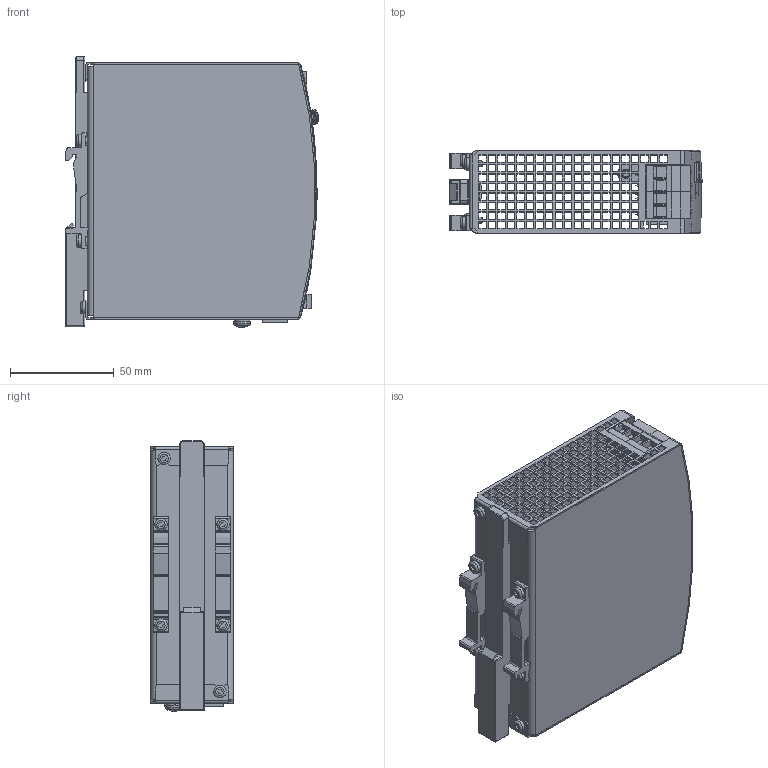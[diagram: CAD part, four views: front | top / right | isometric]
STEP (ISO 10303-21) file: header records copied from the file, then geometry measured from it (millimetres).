
FILE_DESCRIPTION((''),'2;1');
FILE_NAME('C:\Users\rahns\Desktop\Marketing\CPS20.241-C1\SD1CT5-121-SR1_SC_2014-05-22.stp','2014-05-22T11:28:21',('rahns'),(''),'Autodesk Inventor 2009','Autodesk Inventor 2009','');
FILE_SCHEMA(('AUTOMOTIVE_DESIGN { 1 0 10303 214 1 1 1 1 }'));
Length unit declared in the file: millimetre
Products named in the file (12): 385; HOUSING BODY 385; HOUSING COVER 385; FRONTFOIL 385; POTENTIOMETER COVER; TERMINAL 2P D1; TERMINAL 3P D3; T HOLDER; SLIDER; SCREW 3x6; SCREW 4x8; WASHER 4
Assembly tree (18 placements, depth 2):
  385
    HOUSING BODY 385
    HOUSING COVER 385
    FRONTFOIL 385
    POTENTIOMETER COVER
    TERMINAL 2P D1  x2
    TERMINAL 3P D3
    T HOLDER  x2
    SLIDER
    SCREW 3x6  x6
    SCREW 4x8
    WASHER 4
Bounding box: 122.17 x 40 x 130.77 mm (x, y, z)
Volume: 80185.5 mm3; surface area: 109534.4 mm2
Topology: 18 solids, 18 shells, 2452 faces, 6838 edges, 4504 vertices
Faces by surface type: plane 1932, bspline 237, cylinder 215, cone 29, torus 26, sphere 13
Full cylindrical faces by diameter (mm): 0.05 x3, 2.45 x4, 3 x6, 3.1 x4, 3.621 x1, 4 x1, 4.355 x1, 4.5 x2, 5.15 x7, 6 x6
Entity records: 136200 total; most frequent: CARTESIAN_POINT 78610, ORIENTED_EDGE 12394, DIRECTION 10101, EDGE_CURVE 6197, VECTOR 5077, LINE 5077, VERTEX_POINT 4111, EDGE_LOOP 2940
